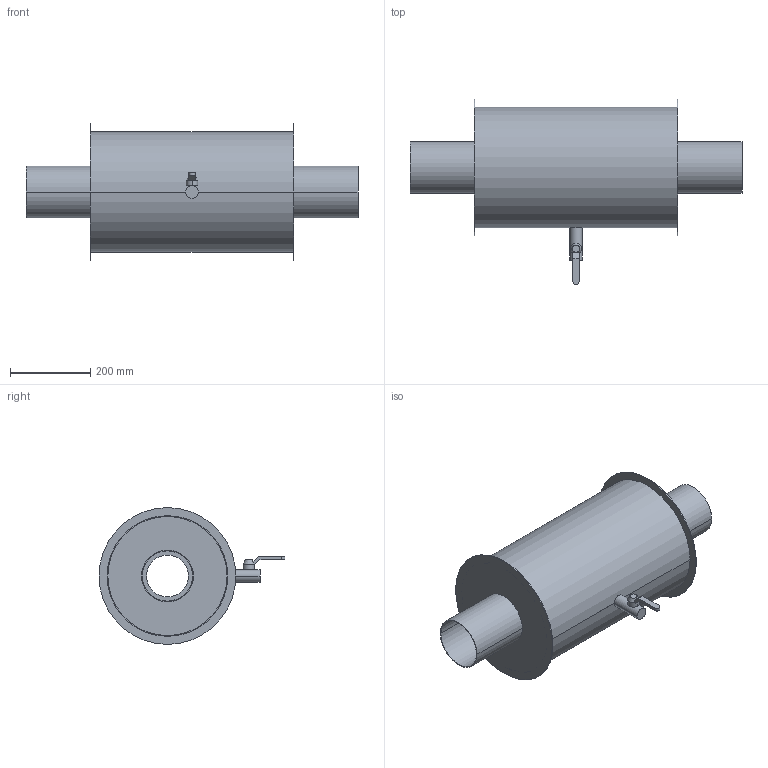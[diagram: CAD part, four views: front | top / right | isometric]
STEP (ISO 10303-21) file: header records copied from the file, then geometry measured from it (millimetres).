
FILE_DESCRIPTION((''),'2;1');
FILE_NAME('017_000117','2020-02-03T08:40:53',('gm'),('HUBER SE'),'CREO PARAMETRIC BY PTC INC, 2019224','CREO PARAMETRIC BY PTC INC, 2019224','');
FILE_SCHEMA(('AUTOMOTIVE_DESIGN { 1 0 10303 214 1 1 1 1 }'));
Length unit declared in the file: millimetre
Products named in the file (1): 017_000117
Bounding box: 825 x 462 x 340 mm (x, y, z)
Volume: 1608573.9 mm3; surface area: 1541828.9 mm2
Topology: 4 solids, 4 shells, 49 faces, 97 edges, 64 vertices
Faces by surface type: cylinder 25, plane 22, cone 2
Entity records: 1790 total; most frequent: DIRECTION 247, CARTESIAN_POINT 212, ORIENTED_EDGE 194, COLOUR_RGB 106, AXIS2_PLACEMENT_3D 101, EDGE_CURVE 97, PROPERTY_DEFINITION 67, REPRESENTATION 66
